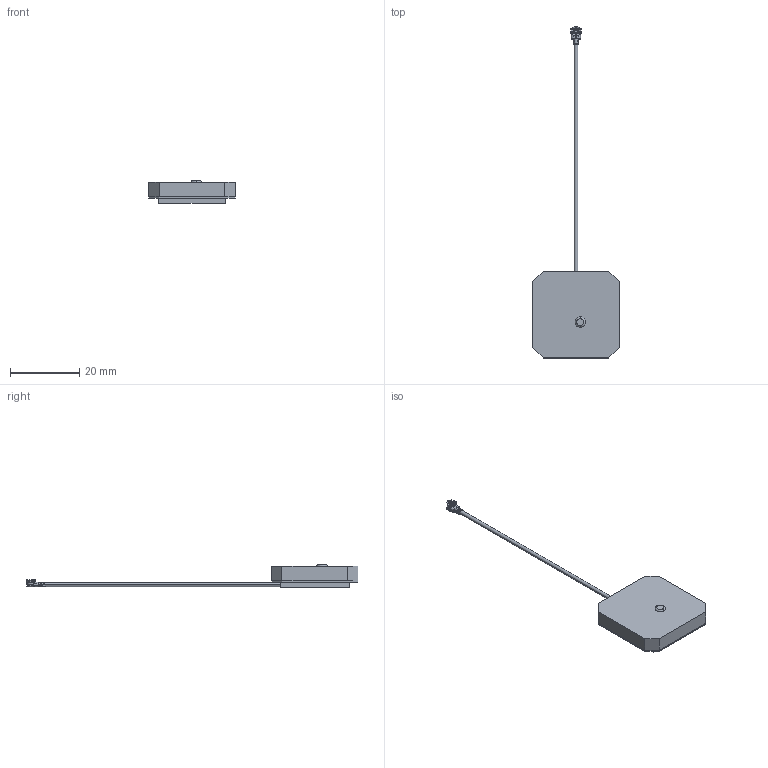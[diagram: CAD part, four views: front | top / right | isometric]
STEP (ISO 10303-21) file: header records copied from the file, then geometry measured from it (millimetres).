
FILE_DESCRIPTION((''),'2;1');
FILE_NAME('1004259_ME_FIT_ASM','2019-10-08T',('jarvayo'),(''),'CREO PARAMETRIC BY PTC INC, 2016130','CREO PARAMETRIC BY PTC INC, 2016130','');
FILE_SCHEMA(('CONFIG_CONTROL_DESIGN'));
Length unit declared in the file: millimetre
Products named in the file (3): 1004259_ME_FIT; 1001422_ME_FIT; 1004259_ME_FIT_ASM
Assembly tree (2 placements, depth 2):
  1004259_ME_FIT_ASM
    1004259_ME_FIT
    1001422_ME_FIT
Bounding box: 25 x 95.96 x 6.5 mm (x, y, z)
Volume: 3357.3 mm3; surface area: 3308 mm2
Topology: 4 solids, 7 shells, 731 faces, 2118 edges, 1408 vertices
Faces by surface type: plane 430, cylinder 140, bspline 57, cone 46, extrusion 33, torus 23, sphere 2
Entity records: 28375 total; most frequent: CARTESIAN_POINT 9778, ORIENTED_EDGE 3822, DIRECTION 3515, EDGE_CURVE 1913, VECTOR 1503, LINE 1470, VERTEX_POINT 1203, AXIS2_PLACEMENT_3D 1006
